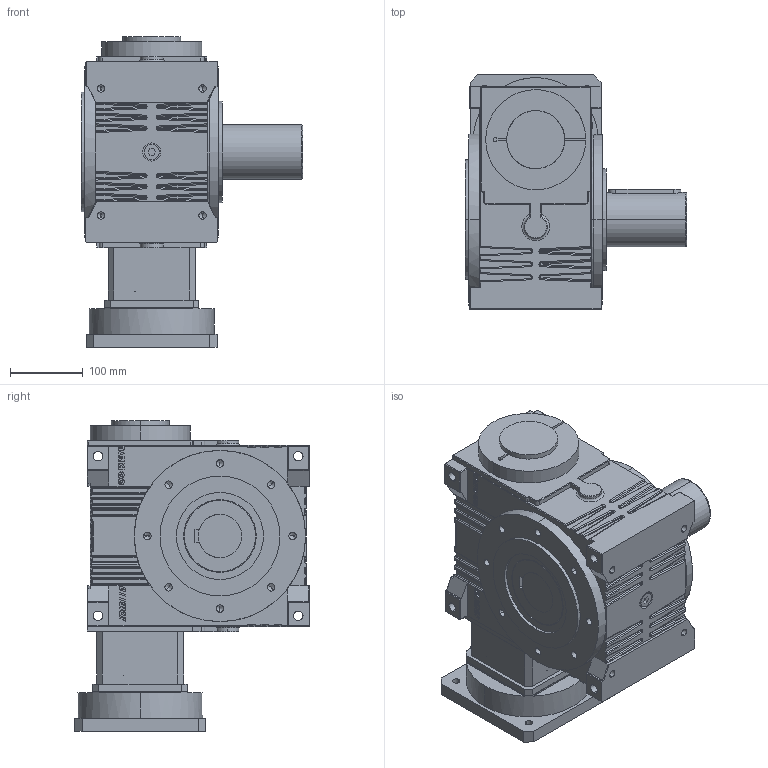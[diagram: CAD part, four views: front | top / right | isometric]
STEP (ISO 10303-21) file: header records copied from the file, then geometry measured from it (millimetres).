
FILE_DESCRIPTION (( 'STEP AP214' ), '1' );
FILE_NAME ('JDLB110-(5~90)-ASR-35-114.3-200-M12.STEP', '2022-04-02T10:56:35', ( '' ), ( '' ), 'SwSTEP 2.0', 'SolidWorks 2018', '' );
FILE_SCHEMA (( 'AUTOMOTIVE_DESIGN' ));
Length unit declared in the file: millimetre
Products named in the file (7): ST180-114.3-200-M12侜督楊擘諉諳; 联轴器BD68-73.3-32-35锁紧; JDLB110-CR諾陑粣朴60; JDLB110-CR眊极; JDLB110-ST130输入法兰; JDLB110-ASR怀堤粣錨璃75-115; JDLB110-(5~90)-ASR-35-114.3-200-M12
Assembly tree (6 placements, depth 2):
  JDLB110-(5~90)-ASR-35-114.3-200-M12
    JDLB110-CR眊极
    JDLB110-CR諾陑粣朴60
    JDLB110-ST130输入法兰
    ST180-114.3-200-M12侜督楊擘諉諳
    联轴器BD68-73.3-32-35锁紧
    JDLB110-ASR怀堤粣錨璃75-115
Bounding box: 305 x 323 x 427.74 mm (x, y, z)
Volume: 15820179.7 mm3; surface area: 972673.7 mm2
Topology: 16 solids, 16 shells, 1830 faces, 4612 edges, 2815 vertices
Faces by surface type: plane 791, cylinder 640, bspline 124, torus 102, cone 91, sphere 82
Entity records: 66430 total; most frequent: CARTESIAN_POINT 19210, ORIENTED_EDGE 8940, DIRECTION 8671, EDGE_CURVE 4470, AXIS2_PLACEMENT_3D 3099, VERTEX_POINT 2815, VECTOR 2473, LINE 2473
